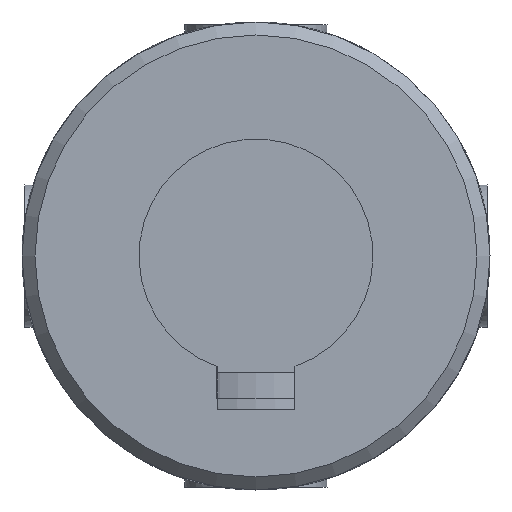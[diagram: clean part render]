
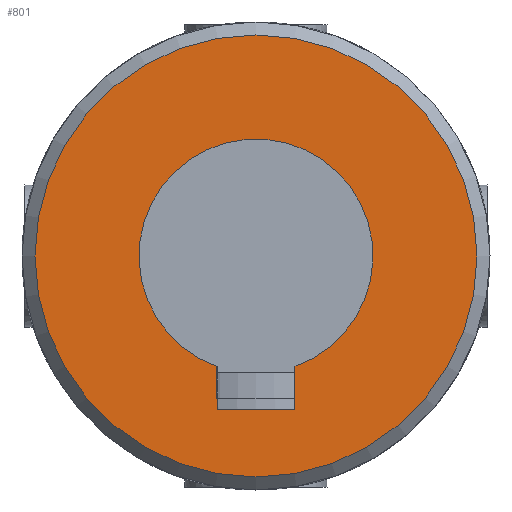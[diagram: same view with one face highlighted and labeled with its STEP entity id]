
A CAD part, front view. The second image highlights one B-rep face of the part: STEP entity #801.
In plain terms, the highlighted planar face has unit normal (0, -1, 0).
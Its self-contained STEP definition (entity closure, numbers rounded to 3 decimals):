
#91=LINE('',#1218,#124);
#95=LINE('',#1245,#128);
#97=LINE('',#1253,#130);
#124=VECTOR('',#996,3.315);
#128=VECTOR('',#1008,6.);
#130=VECTOR('',#1012,3.315);
#156=PLANE('',#874);
#182=FACE_BOUND('',#275,.T.);
#209=FACE_OUTER_BOUND('',#274,.T.);
#274=EDGE_LOOP('',(#639));
#275=EDGE_LOOP('',(#640,#641,#642,#643));
#319=CIRCLE('',#861,9.);
#325=CIRCLE('',#872,17.);
#367=VERTEX_POINT('',#1215);
#368=VERTEX_POINT('',#1217);
#371=VERTEX_POINT('',#1227);
#373=VERTEX_POINT('',#1243);
#382=VERTEX_POINT('',#1330);
#450=EDGE_CURVE('',#368,#367,#91,.T.);
#454=EDGE_CURVE('',#371,#368,#319,.T.);
#458=EDGE_CURVE('',#367,#373,#95,.T.);
#461=EDGE_CURVE('',#373,#371,#97,.T.);
#471=EDGE_CURVE('',#382,#382,#325,.T.);
#639=ORIENTED_EDGE('',*,*,#471,.F.);
#640=ORIENTED_EDGE('',*,*,#450,.T.);
#641=ORIENTED_EDGE('',*,*,#458,.T.);
#642=ORIENTED_EDGE('',*,*,#461,.T.);
#643=ORIENTED_EDGE('',*,*,#454,.T.);
#801=ADVANCED_FACE('',(#209,#182),#156,.F.);
#861=AXIS2_PLACEMENT_3D('',#1228,#1002,#1003);
#872=AXIS2_PLACEMENT_3D('',#1331,#1029,#1030);
#874=AXIS2_PLACEMENT_3D('',#1555,#1037,#1038);
#996=DIRECTION('',(0.,0.,-1.));
#1002=DIRECTION('center_axis',(0.,1.,0.));
#1003=DIRECTION('ref_axis',(0.333,0.,-0.943));
#1008=DIRECTION('',(-1.,0.,0.));
#1012=DIRECTION('',(0.,0.,1.));
#1029=DIRECTION('center_axis',(0.,1.,0.));
#1030=DIRECTION('ref_axis',(1.,0.,0.));
#1037=DIRECTION('center_axis',(0.,1.,0.));
#1038=DIRECTION('ref_axis',(0.,0.,1.));
#1215=CARTESIAN_POINT('',(3.,-45.5,-11.8));
#1217=CARTESIAN_POINT('',(3.,-45.5,-8.485));
#1218=CARTESIAN_POINT('',(3.,-45.5,-4.243));
#1227=CARTESIAN_POINT('',(-3.,-45.5,-8.485));
#1228=CARTESIAN_POINT('Origin',(0.,-45.5,0.));
#1243=CARTESIAN_POINT('',(-3.,-45.5,-11.8));
#1245=CARTESIAN_POINT('',(1.5,-45.5,-11.8));
#1253=CARTESIAN_POINT('',(-3.,-45.5,-5.9));
#1330=CARTESIAN_POINT('',(-17.,-45.5,0.));
#1331=CARTESIAN_POINT('Origin',(0.,-45.5,0.));
#1555=CARTESIAN_POINT('Origin',(0.,-45.5,0.));
